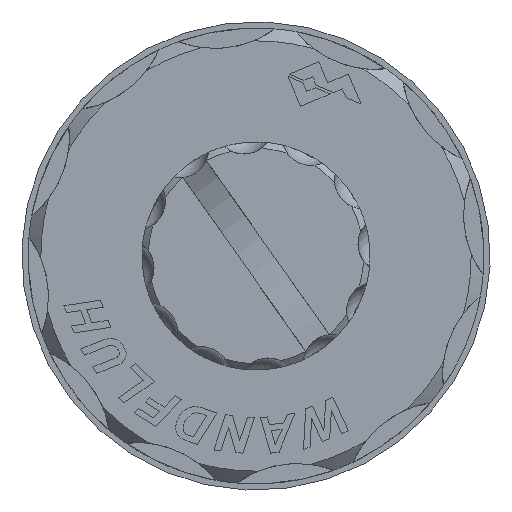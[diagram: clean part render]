
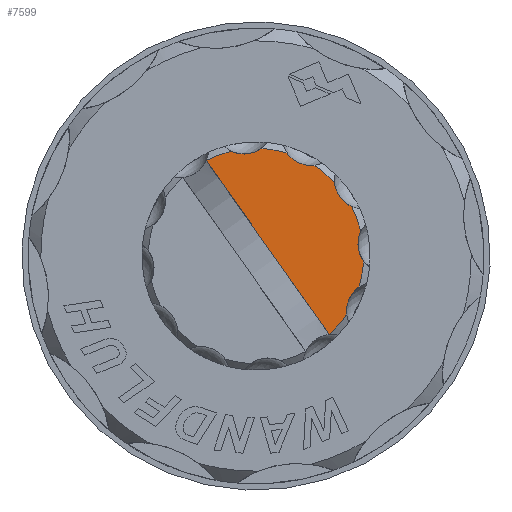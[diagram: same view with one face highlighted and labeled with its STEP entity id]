
A CAD part, left-side view. The second image highlights one B-rep face of the part: STEP entity #7599.
In plain terms, the highlighted planar face has unit normal (-1, 0, 0).
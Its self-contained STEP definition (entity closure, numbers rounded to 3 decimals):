
#74 = CIRCLE ( 'NONE', #1180, 8.5 ) ;
#98 = CIRCLE ( 'NONE', #1166, 2.314 ) ;
#259 = DIRECTION ( 'NONE',  ( 0., -0.578, -0.816 ) ) ;
#312 = VERTEX_POINT ( 'NONE', #5783 ) ;
#466 = DIRECTION ( 'NONE',  ( -1., 0., 0. ) ) ;
#478 = CARTESIAN_POINT ( 'NONE',  ( -57.2, 0., 0. ) ) ;
#666 = DIRECTION ( 'NONE',  ( 0., -0.578, -0.816 ) ) ;
#709 = FACE_OUTER_BOUND ( 'NONE', #2592, .T. ) ;
#882 = DIRECTION ( 'NONE',  ( -1., 0., 0. ) ) ;
#900 = ORIENTED_EDGE ( 'NONE', *, *, #5307, .T. ) ;
#916 = CARTESIAN_POINT ( 'NONE',  ( -57.2, 0., 0. ) ) ;
#1113 = AXIS2_PLACEMENT_3D ( 'NONE', #10782, #10781, #10769 ) ;
#1164 = AXIS2_PLACEMENT_3D ( 'NONE', #478, #466, #259 ) ;
#1166 = AXIS2_PLACEMENT_3D ( 'NONE', #2250, #2018, #1969 ) ;
#1180 = AXIS2_PLACEMENT_3D ( 'NONE', #3853, #3749, #2915 ) ;
#1183 = AXIS2_PLACEMENT_3D ( 'NONE', #6428, #4889, #4802 ) ;
#1191 = AXIS2_PLACEMENT_3D ( 'NONE', #8543, #8029, #7698 ) ;
#1192 = AXIS2_PLACEMENT_3D ( 'NONE', #11315, #11275, #10451 ) ;
#1194 = AXIS2_PLACEMENT_3D ( 'NONE', #1541, #882, #666 ) ;
#1210 = AXIS2_PLACEMENT_3D ( 'NONE', #2703, #2556, #1859 ) ;
#1213 = AXIS2_PLACEMENT_3D ( 'NONE', #916, #4354, #3494 ) ;
#1222 = AXIS2_PLACEMENT_3D ( 'NONE', #4607, #4526, #4276 ) ;
#1226 = AXIS2_PLACEMENT_3D ( 'NONE', #6510, #6381, #6232 ) ;
#1248 = AXIS2_PLACEMENT_3D ( 'NONE', #9180, #9108, #8959 ) ;
#1261 = ORIENTED_EDGE ( 'NONE', *, *, #5268, .T. ) ;
#1541 = CARTESIAN_POINT ( 'NONE',  ( -57.2, 0., 0. ) ) ;
#1724 = CARTESIAN_POINT ( 'NONE',  ( -57.2, -2.45, 8.139 ) ) ;
#1859 = DIRECTION ( 'NONE',  ( 0., -0.578, -0.816 ) ) ;
#1969 = DIRECTION ( 'NONE',  ( 0., -0.578, -0.816 ) ) ;
#1972 = VERTEX_POINT ( 'NONE', #6041 ) ;
#2018 = DIRECTION ( 'NONE',  ( 1., 0., 0. ) ) ;
#2170 = VERTEX_POINT ( 'NONE', #6173 ) ;
#2250 = CARTESIAN_POINT ( 'NONE',  ( -57.2, 0.966, 10.369 ) ) ;
#2357 = CARTESIAN_POINT ( 'NONE',  ( -57.2, 3.911, 7.547 ) ) ;
#2378 = CIRCLE ( 'NONE', #1183, 2.314 ) ;
#2521 = VERTEX_POINT ( 'NONE', #8374 ) ;
#2556 = DIRECTION ( 'NONE',  ( 1., 0., 0. ) ) ;
#2592 = EDGE_LOOP ( 'NONE', ( #2652, #3513, #7565, #2799, #5043, #1261, #10696, #6943, #2639, #900, #3210, #3311, #7852, #4652 ) ) ;
#2612 = VERTEX_POINT ( 'NONE', #9870 ) ;
#2639 = ORIENTED_EDGE ( 'NONE', *, *, #5289, .T. ) ;
#2652 = ORIENTED_EDGE ( 'NONE', *, *, #5229, .F. ) ;
#2703 = CARTESIAN_POINT ( 'NONE',  ( -57.2, -10.369, 0.966 ) ) ;
#2799 = ORIENTED_EDGE ( 'NONE', *, *, #5245, .T. ) ;
#2915 = DIRECTION ( 'NONE',  ( 0., -0.578, -0.816 ) ) ;
#3210 = ORIENTED_EDGE ( 'NONE', *, *, #5310, .T. ) ;
#3234 = CARTESIAN_POINT ( 'NONE',  ( -57.2, -6.191, 5.824 ) ) ;
#3311 = ORIENTED_EDGE ( 'NONE', *, *, #5314, .T. ) ;
#3320 = CARTESIAN_POINT ( 'NONE',  ( -57.2, 1.948, 8.274 ) ) ;
#3494 = DIRECTION ( 'NONE',  ( 0., -0.578, -0.816 ) ) ;
#3513 = ORIENTED_EDGE ( 'NONE', *, *, #5227, .F. ) ;
#3749 = DIRECTION ( 'NONE',  ( -1., 0., 0. ) ) ;
#3772 = CIRCLE ( 'NONE', #1194, 8.5 ) ;
#3853 = CARTESIAN_POINT ( 'NONE',  ( -57.2, 0., 0. ) ) ;
#4184 = CIRCLE ( 'NONE', #1210, 2.314 ) ;
#4276 = DIRECTION ( 'NONE',  ( 0., -0.578, -0.816 ) ) ;
#4354 = DIRECTION ( 'NONE',  ( -1., 0., 0. ) ) ;
#4526 = DIRECTION ( 'NONE',  ( 1., 0., 0. ) ) ;
#4607 = CARTESIAN_POINT ( 'NONE',  ( -57.2, -9.463, -4.348 ) ) ;
#4652 = ORIENTED_EDGE ( 'NONE', *, *, #5331, .T. ) ;
#4794 = CIRCLE ( 'NONE', #1213, 8.5 ) ;
#4800 = CIRCLE ( 'NONE', #1164, 8.5 ) ;
#4802 = DIRECTION ( 'NONE',  ( 0., -0.578, -0.816 ) ) ;
#4889 = DIRECTION ( 'NONE',  ( 1., 0., 0. ) ) ;
#4930 = CIRCLE ( 'NONE', #1113, 2.314 ) ;
#4978 = AXIS2_PLACEMENT_3D ( 'NONE', #5269, #5252, #5251 ) ;
#5043 = ORIENTED_EDGE ( 'NONE', *, *, #5265, .T. ) ;
#5122 = CIRCLE ( 'NONE', #1222, 2.314 ) ;
#5227 = EDGE_CURVE ( 'NONE', #2612, #1972, #10800, .T. ) ;
#5229 = EDGE_CURVE ( 'NONE', #1972, #2170, #10934, .T. ) ;
#5243 = EDGE_CURVE ( 'NONE', #2612, #2521, #7444, .T. ) ;
#5245 = EDGE_CURVE ( 'NONE', #2521, #8836, #5122, .T. ) ;
#5251 = DIRECTION ( 'NONE',  ( 0., -0.578, -0.816 ) ) ;
#5252 = DIRECTION ( 'NONE',  ( 1., 0., 0. ) ) ;
#5265 = EDGE_CURVE ( 'NONE', #8836, #7596, #4794, .T. ) ;
#5268 = EDGE_CURVE ( 'NONE', #7596, #9209, #4184, .T. ) ;
#5269 = CARTESIAN_POINT ( 'NONE',  ( -57.2, 5.204, 7.343 ) ) ;
#5271 = EDGE_CURVE ( 'NONE', #9209, #9477, #3772, .T. ) ;
#5283 = EDGE_CURVE ( 'NONE', #9477, #7707, #6618, .T. ) ;
#5289 = EDGE_CURVE ( 'NONE', #7707, #6539, #9649, .T. ) ;
#5307 = EDGE_CURVE ( 'NONE', #6539, #9015, #2378, .T. ) ;
#5310 = EDGE_CURVE ( 'NONE', #9015, #312, #74, .T. ) ;
#5314 = EDGE_CURVE ( 'NONE', #312, #9136, #98, .T. ) ;
#5315 = EDGE_CURVE ( 'NONE', #9136, #8164, #4800, .T. ) ;
#5331 = EDGE_CURVE ( 'NONE', #8164, #2170, #4930, .T. ) ;
#5617 = CARTESIAN_POINT ( 'NONE',  ( -57.2, -8.491, -0.386 ) ) ;
#5627 = PLANE ( 'NONE',  #4978 ) ;
#5783 = CARTESIAN_POINT ( 'NONE',  ( -57.2, -0.386, 8.491 ) ) ;
#6041 = CARTESIAN_POINT ( 'NONE',  ( -57.2, -5.798, -6.194 ) ) ;
#6173 = CARTESIAN_POINT ( 'NONE',  ( -57.2, 3.922, 7.523 ) ) ;
#6232 = DIRECTION ( 'NONE',  ( 0., -0.578, -0.816 ) ) ;
#6319 = VECTOR ( 'NONE', #8544, 1000. ) ;
#6381 = DIRECTION ( 'NONE',  ( -1., 0., 0. ) ) ;
#6428 = CARTESIAN_POINT ( 'NONE',  ( -57.2, -4.348, 9.463 ) ) ;
#6510 = CARTESIAN_POINT ( 'NONE',  ( -57.2, 0., 0. ) ) ;
#6539 = VERTEX_POINT ( 'NONE', #8429 ) ;
#6618 = CIRCLE ( 'NONE', #1192, 2.314 ) ;
#6943 = ORIENTED_EDGE ( 'NONE', *, *, #5283, .T. ) ;
#7444 = CIRCLE ( 'NONE', #1226, 8.5 ) ;
#7565 = ORIENTED_EDGE ( 'NONE', *, *, #5243, .T. ) ;
#7596 = VERTEX_POINT ( 'NONE', #5617 ) ;
#7599 = ADVANCED_FACE ( 'NONE', ( #709 ), #5627, .F. ) ;
#7698 = DIRECTION ( 'NONE',  ( 0., -0.578, -0.816 ) ) ;
#7707 = VERTEX_POINT ( 'NONE', #3234 ) ;
#7824 = CARTESIAN_POINT ( 'NONE',  ( -57.2, -8.274, 1.948 ) ) ;
#7852 = ORIENTED_EDGE ( 'NONE', *, *, #5315, .T. ) ;
#7943 = CARTESIAN_POINT ( 'NONE',  ( -57.2, -7.547, 3.911 ) ) ;
#8029 = DIRECTION ( 'NONE',  ( -1., 0., 0. ) ) ;
#8164 = VERTEX_POINT ( 'NONE', #2357 ) ;
#8374 = CARTESIAN_POINT ( 'NONE',  ( -57.2, -7.161, -4.58 ) ) ;
#8429 = CARTESIAN_POINT ( 'NONE',  ( -57.2, -4.58, 7.161 ) ) ;
#8543 = CARTESIAN_POINT ( 'NONE',  ( -57.2, 0., 0. ) ) ;
#8544 = DIRECTION ( 'NONE',  ( 0., 0.578, 0.816 ) ) ;
#8836 = VERTEX_POINT ( 'NONE', #8998 ) ;
#8959 = DIRECTION ( 'NONE',  ( 0., 0.578, 0.816 ) ) ;
#8998 = CARTESIAN_POINT ( 'NONE',  ( -57.2, -8.139, -2.45 ) ) ;
#9015 = VERTEX_POINT ( 'NONE', #1724 ) ;
#9108 = DIRECTION ( 'NONE',  ( -1., 0., 0. ) ) ;
#9136 = VERTEX_POINT ( 'NONE', #3320 ) ;
#9180 = CARTESIAN_POINT ( 'NONE',  ( -57.2, -6.021, -8.497 ) ) ;
#9209 = VERTEX_POINT ( 'NONE', #7824 ) ;
#9383 = CARTESIAN_POINT ( 'NONE',  ( -57.2, 4.265, 8.008 ) ) ;
#9477 = VERTEX_POINT ( 'NONE', #7943 ) ;
#9649 = CIRCLE ( 'NONE', #1191, 8.5 ) ;
#9870 = CARTESIAN_POINT ( 'NONE',  ( -57.2, -5.824, -6.191 ) ) ;
#10451 = DIRECTION ( 'NONE',  ( 0., -0.578, -0.816 ) ) ;
#10696 = ORIENTED_EDGE ( 'NONE', *, *, #5271, .T. ) ;
#10769 = DIRECTION ( 'NONE',  ( 0., -0.578, -0.816 ) ) ;
#10781 = DIRECTION ( 'NONE',  ( 1., 0., 0. ) ) ;
#10782 = CARTESIAN_POINT ( 'NONE',  ( -57.2, 6.021, 8.497 ) ) ;
#10800 = CIRCLE ( 'NONE', #1248, 2.314 ) ;
#10934 = LINE ( 'NONE', #9383, #6319 ) ;
#11275 = DIRECTION ( 'NONE',  ( 1., 0., 0. ) ) ;
#11315 = CARTESIAN_POINT ( 'NONE',  ( -57.2, -8.497, 6.021 ) ) ;
